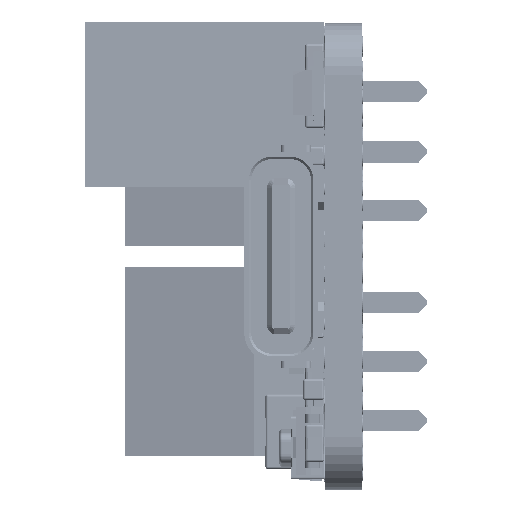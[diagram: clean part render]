
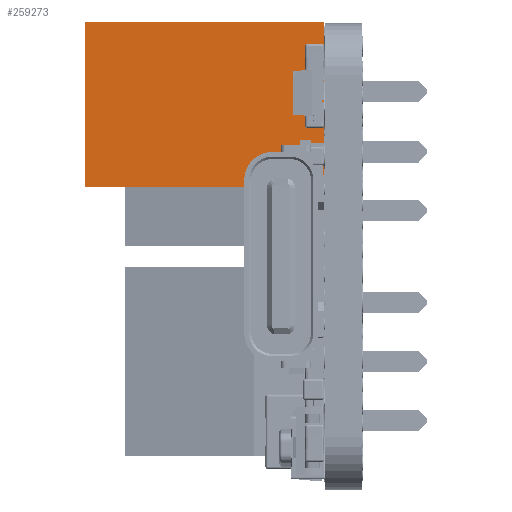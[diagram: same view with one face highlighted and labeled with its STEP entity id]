
A CAD part, left-side view. The second image highlights one B-rep face of the part: STEP entity #259273.
In plain terms, the highlighted planar face has unit normal (-1, 0, 0).
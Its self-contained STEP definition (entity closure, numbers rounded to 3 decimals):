
#91999 = LINE ( 'NONE', #104557, #92045 ) ;
#92045 = VECTOR ( 'NONE', #104589, 1000. ) ;
#104557 = CARTESIAN_POINT ( 'NONE',  ( -9.825, 10.21, 3.525 ) ) ;
#104589 = DIRECTION ( 'NONE',  ( 0., -1., 0. ) ) ;
#120990 = CARTESIAN_POINT ( 'NONE',  ( -9.825, 10.21, -3.525 ) ) ;
#121060 = DIRECTION ( 'NONE',  ( 0., -1., 0. ) ) ;
#121381 = DIRECTION ( 'NONE',  ( 0., 0., -1. ) ) ;
#121478 = CARTESIAN_POINT ( 'NONE',  ( -9.825, 0.01, 3.525 ) ) ;
#121657 = DIRECTION ( 'NONE',  ( 0., 0., 1. ) ) ;
#121687 = CARTESIAN_POINT ( 'NONE',  ( -9.825, 10.21, -3.525 ) ) ;
#124673 = VECTOR ( 'NONE', #121381, 1000. ) ;
#124711 = LINE ( 'NONE', #120990, #124923 ) ;
#124915 = LINE ( 'NONE', #121478, #124673 ) ;
#124923 = VECTOR ( 'NONE', #121060, 1000. ) ;
#124973 = LINE ( 'NONE', #121687, #125107 ) ;
#125107 = VECTOR ( 'NONE', #121657, 1000. ) ;
#171046 = EDGE_LOOP ( 'NONE', ( #272848, #272902, #272895, #272729 ) ) ;
#179090 = AXIS2_PLACEMENT_3D ( 'NONE', #251274, #251283, #251287 ) ;
#239075 = CARTESIAN_POINT ( 'NONE',  ( -9.825, 10.21, 3.525 ) ) ;
#239355 = CARTESIAN_POINT ( 'NONE',  ( -9.825, 0.01, 3.525 ) ) ;
#239500 = CARTESIAN_POINT ( 'NONE',  ( -9.825, 10.21, -3.525 ) ) ;
#239520 = CARTESIAN_POINT ( 'NONE',  ( -9.825, 0.01, -3.525 ) ) ;
#243543 = FACE_OUTER_BOUND ( 'NONE', #171046, .T. ) ;
#251258 = PLANE ( 'NONE',  #179090 ) ;
#251274 = CARTESIAN_POINT ( 'NONE',  ( -9.825, 10.21, -3.525 ) ) ;
#251283 = DIRECTION ( 'NONE',  ( 1., 0., 0. ) ) ;
#251287 = DIRECTION ( 'NONE',  ( 0., 0., -1. ) ) ;
#254256 = EDGE_CURVE ( 'NONE', #289130, #289245, #91999, .T. ) ;
#255363 = EDGE_CURVE ( 'NONE', #289443, #289515, #124711, .T. ) ;
#255426 = EDGE_CURVE ( 'NONE', #289245, #289515, #124915, .T. ) ;
#255478 = EDGE_CURVE ( 'NONE', #289443, #289130, #124973, .T. ) ;
#259273 = ADVANCED_FACE ( 'NONE', ( #243543 ), #251258, .F. ) ;
#272729 = ORIENTED_EDGE ( 'NONE', *, *, #255478, .F. ) ;
#272848 = ORIENTED_EDGE ( 'NONE', *, *, #255363, .T. ) ;
#272895 = ORIENTED_EDGE ( 'NONE', *, *, #254256, .F. ) ;
#272902 = ORIENTED_EDGE ( 'NONE', *, *, #255426, .F. ) ;
#289130 = VERTEX_POINT ( 'NONE', #239075 ) ;
#289245 = VERTEX_POINT ( 'NONE', #239355 ) ;
#289443 = VERTEX_POINT ( 'NONE', #239500 ) ;
#289515 = VERTEX_POINT ( 'NONE', #239520 ) ;
